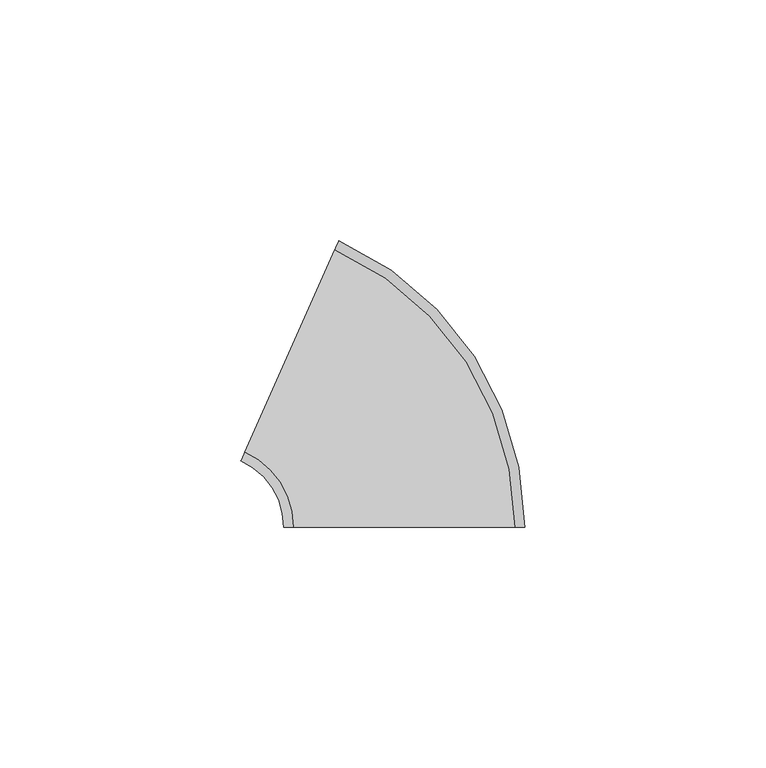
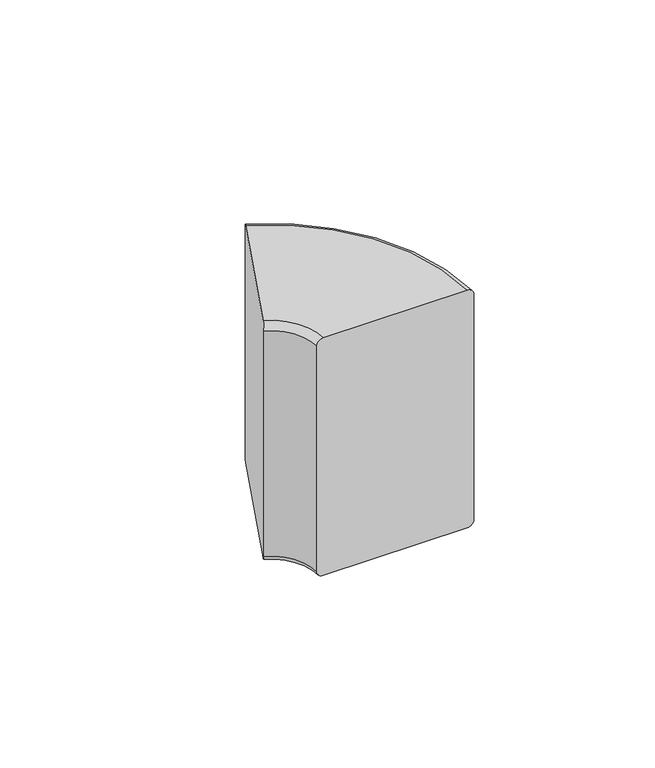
"""IFC4 building model written with IfcOpenShell, lengths in millimetres: duct fitting geometry, Угол внешний переменный от 60° до 120° - для кабель-каналов - белый : Угол внешний переменный от 60° до 120° - для кабель-каналов DLP 50х80 - белый."""

from ifc_helpers import new_model, si_unit, point, frame, origin, place, context, project, spatial, polyline, circle_curve, ellipse_curve, trimmed, source, transform, mapped, element, save
from ifc_brep_helpers import plane_surface, cylinder_surface, revolved_surface, advanced_brep


def duct_fitting_83ac70ee(model_context):
    return source(origin(), model_context, "Body", "AdvancedBrep", [
        advanced_brep(
        [(-23.0, 0.0, 40.0), (-25.0, 0.0, 38.0), (-25.0, 0.0, -38.0), (-23.0, 0.0, -40.0), (23.0, 0.0, -40.0), (25.0, 0.0, -38.0), (25.0, 0.0, 38.0), (23.0, 0.0, 40.0), (-33.0854771, 15.5302728, 40.0), (-14.3755915, 57.5533638, 40.0), (-13.5621182, 59.3804547, 38.0), (-13.5621182, 59.3804547, -38.0), (-14.3755915, 57.5533638, -40.0), (-33.0854771, 15.5302728, -40.0), (-33.8989504, 13.7031819, -38.0), (-33.8989504, 13.7031819, 38.0)],
        [
            (0, 1, circle_curve(frame((-23.0, 0.0, 38.0), z_axis=(0.0, -1.0, 0.0), x_axis=(-1.0, 0.0, 0.0)), 2.0)),
            (1, 2),
            (2, 3, circle_curve(frame((-23.0, 0.0, -38.0), z_axis=(0.0, -1.0, 0.0), x_axis=(-1.0, 0.0, 0.0)), 2.0)),
            (3, 4),
            (4, 5, circle_curve(frame((23.0, 0.0, -38.0), z_axis=(0.0, -1.0, 0.0), x_axis=(-1.0, 0.0, 0.0)), 2.0)),
            (5, 6),
            (6, 7, circle_curve(frame((23.0, 0.0, 38.0), z_axis=(0.0, -1.0, 0.0), x_axis=(-1.0, 0.0, 0.0)), 2.0)),
            (7, 0),
            (8, 9),
            (9, 10, circle_curve(frame((-14.3755915, 57.5533638, 38.0), z_axis=(-0.913545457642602, 0.4067366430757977, 0.0), x_axis=(-0.4067366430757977, -0.913545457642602, 0.0)), 2.0)),
            (10, 11),
            (11, 12, circle_curve(frame((-14.3755915, 57.5533638, -38.0), z_axis=(-0.913545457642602, 0.4067366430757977, 0.0), x_axis=(-0.4067366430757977, -0.913545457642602, 0.0)), 2.0)),
            (12, 13),
            (13, 14, circle_curve(frame((-33.0854771, 15.5302728, -38.0), z_axis=(-0.913545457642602, 0.4067366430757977, 0.0), x_axis=(-0.4067366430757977, -0.913545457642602, 0.0)), 2.0)),
            (14, 15),
            (15, 8, circle_curve(frame((-33.0854771, 15.5302728, 38.0), z_axis=(-0.913545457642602, 0.4067366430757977, 0.0), x_axis=(-0.4067366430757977, -0.913545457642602, 0.0)), 2.0)),
            (15, 1, circle_curve(frame((-40.0, 0.0, 38.0), z_axis=(0.0, 0.0, -1.0), x_axis=(1.0, 0.0, 0.0)), 15.0)),
            (0, 8, circle_curve(frame((-40.0, 0.0, 40.0), z_axis=(0.0, 0.0, 1.0), x_axis=(1.0, 0.0, 0.0)), 17.0)),
            (14, 2, circle_curve(frame((-40.0, 0.0, -38.0), z_axis=(0.0, 0.0, -1.0), x_axis=(1.0, 0.0, 0.0)), 15.0)),
            (13, 3, circle_curve(frame((-40.0, 0.0, -40.0), z_axis=(0.0, 0.0, -1.0), x_axis=(1.0, 0.0, 0.0)), 17.0)),
            (12, 4, circle_curve(frame((-40.0, 0.0, -40.0), z_axis=(0.0, 0.0, -1.0), x_axis=(1.0, 0.0, 0.0)), 63.0)),
            (11, 5, circle_curve(frame((-40.0, 0.0, -38.0), z_axis=(0.0, 0.0, -1.0), x_axis=(1.0, 0.0, 0.0)), 65.0)),
            (10, 6, circle_curve(frame((-40.0, 0.0, 38.0), z_axis=(0.0, 0.0, -1.0), x_axis=(1.0, 0.0, 0.0)), 65.0)),
            (9, 7, circle_curve(frame((-40.0, 0.0, 40.0), z_axis=(0.0, 0.0, -1.0), x_axis=(1.0, 0.0, 0.0)), 63.0)),
        ],
        [
            plane_surface(frame((0.0, 0.0, 0.0), z_axis=(0.0, -1.0, 0.0), x_axis=(0.0, 0.0, 1.0))),
            plane_surface(frame((-23.7305343, 36.5418183, 0.0), z_axis=(-0.913545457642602, 0.4067366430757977, 0.0), x_axis=(0.0, 0.0, 1.0))),
            revolved_surface(trimmed(ellipse_curve(frame((-23.0, 0.0, 38.0), z_axis=(0.0, -1.0, 0.0), x_axis=(-1.0, 0.0, 0.0)), 2.0, 2.0), [point((-23.0, 0.0, 40.0))], [point((-25.0, 0.0, 38.0))], True, "CARTESIAN"), (-40.0, 0.0, 0.0), (0.0, 0.0, 1.0)),
            revolved_surface(polyline([(-25.0, 0.0, 38.0), (-25.0, 0.0, -38.0)]), (-40.0, 0.0, 0.0), (0.0, 0.0, 1.0)),
            revolved_surface(trimmed(ellipse_curve(frame((-23.0, 0.0, -38.0), z_axis=(0.0, -1.0, 0.0), x_axis=(-1.0, 0.0, 0.0)), 2.0, 2.0), [point((-25.0, 0.0, -38.0))], [point((-23.0, 0.0, -40.0))], True, "CARTESIAN"), (-40.0, 0.0, 0.0), (0.0, 0.0, 1.0)),
            plane_surface(frame((-40.0, 0.0, -40.0), z_axis=(0.0, 0.0, -1.0), x_axis=(1.0, 0.0, 0.0))),
            revolved_surface(trimmed(ellipse_curve(frame((23.0, 0.0, -38.0), z_axis=(0.0, -1.0, 0.0), x_axis=(-1.0, 0.0, 0.0)), 2.0, 2.0), [point((23.0, 0.0, -40.0))], [point((25.0, 0.0, -38.0))], True, "CARTESIAN"), (-40.0, 0.0, 0.0), (0.0, 0.0, 1.0)),
            cylinder_surface(frame((-40.0, 0.0, 0.0), z_axis=(0.0, 0.0, 1.0), x_axis=(1.0, 0.0, 0.0)), 65.0),
            revolved_surface(trimmed(ellipse_curve(frame((23.0, 0.0, 38.0), z_axis=(0.0, -1.0, 0.0), x_axis=(-1.0, 0.0, 0.0)), 2.0, 2.0), [point((25.0, 0.0, 38.0))], [point((23.0, 0.0, 40.0))], True, "CARTESIAN"), (-40.0, 0.0, 0.0), (0.0, 0.0, 1.0)),
            plane_surface(frame((-40.0, 0.0, 40.0), z_axis=(0.0, 0.0, 1.0), x_axis=(1.0, 0.0, 0.0))),
        ],
        [
            (0, [[1, 2, 3, 4, 5, 6, 7, 8]]),
            (1, [[9, 10, 11, 12, 13, 14, 15, 16]]),
            (2, [[17, -1, 18, -16]]),
            (3, [[19, -2, -17, -15]]),
            (4, [[20, -3, -19, -14]]),
            (5, [[21, -4, -20, -13]]),
            (6, [[22, -5, -21, -12]]),
            (7, [[23, -6, -22, -11]]),
            (8, [[24, -7, -23, -10]]),
            (9, [[-18, -8, -24, -9]]),
        ],
    ),
    ])


if __name__ == "__main__":
    model = new_model("IFC4")
    model_context = context("Model", 3, world=origin())
    ifc_project = project(units=[si_unit("LENGTHUNIT", "METRE", prefix="MILLI")], contexts=[model_context])
    site = spatial("IfcSite", under=ifc_project)
    building = spatial("IfcBuilding", under=site)
    placement = place(None, origin())
    duct_fitting_shape = duct_fitting_83ac70ee(model_context)
    element("IfcDuctFitting", 1, ObjectType="Угол внешний переменный от 60° до 120° - для кабель-каналов - белый : Угол внешний переменный от 60° до 120° - для кабель-каналов DLP 50х80 - белый", at=placement, inside=building, context=model_context, shape_type="MappedRepresentation", body=[
        mapped(duct_fitting_shape, transform((0.0, 0.0, 0.0), x_axis=(1.0, 0.0, 0.0), y_axis=(0.0, 1.0, 0.0), z_axis=(0.0, 0.0, 1.0))),
    ])
    save(model, "model.ifc")
